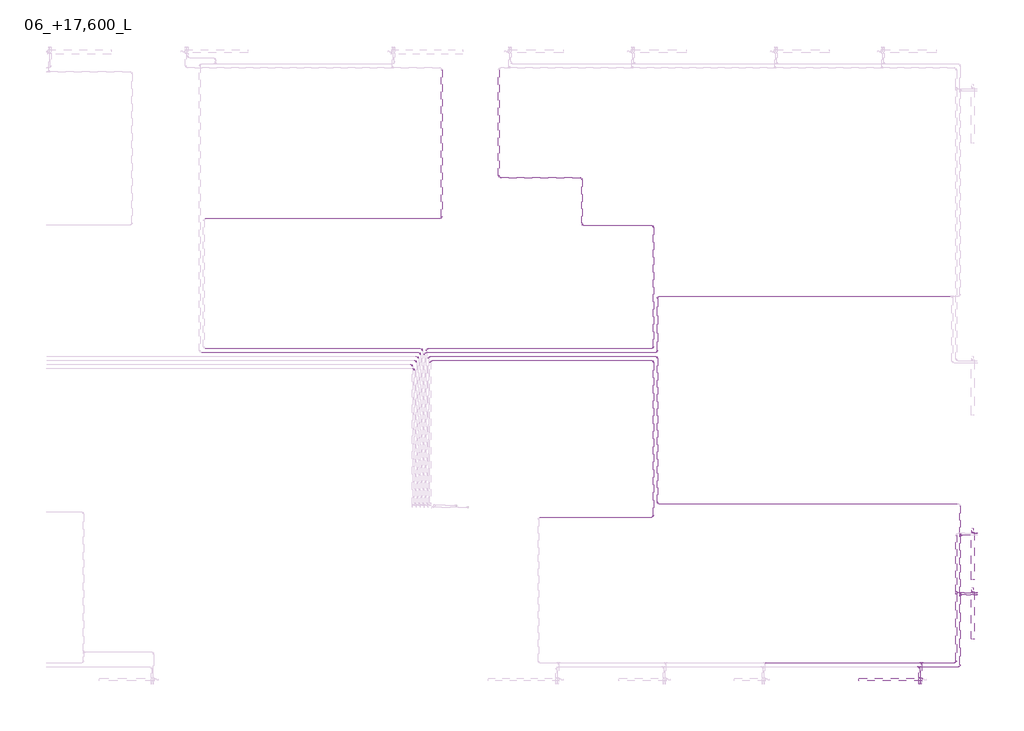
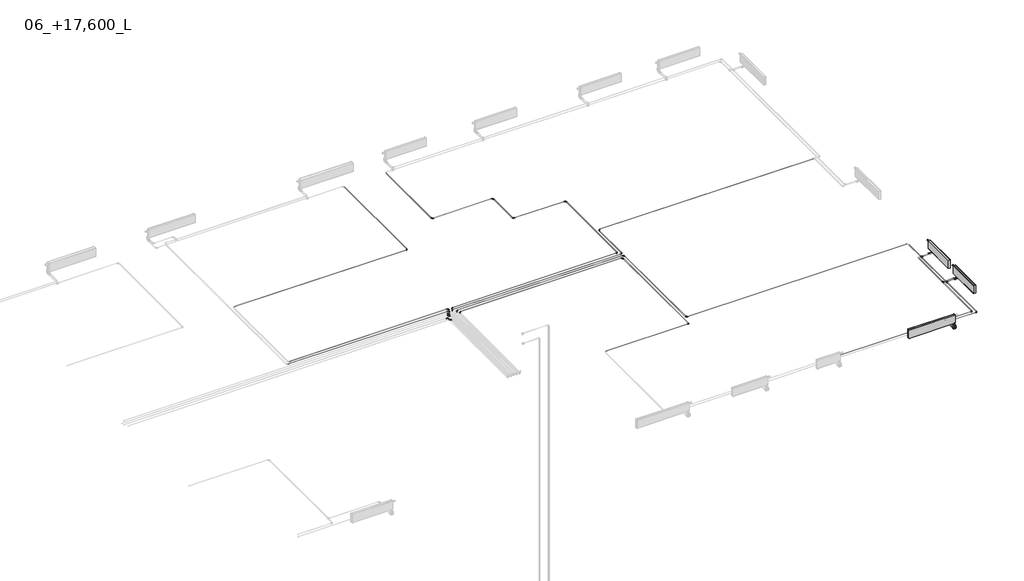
# One storey, part 4 of 7: 34 pipe fittings, 32 pipe segments, 3 proxies, 2 valves.
"""IFC4 building model written with IfcOpenShell, lengths in millimetres."""

from ifc_helpers import new_model, si_unit, point, frame, frame_2d, origin, place, context, project, spatial, circle_curve, trimmed, segment, composite_curve, outline, extrude, transform, mapped, element, save
from components import mechanical_equipment_c0c35615, mechanical_equipment_da64a6a1, pipe_fitting_44bd76dc, pipe_fitting_8f811e63, pipe_fitting_d927fdfb, valve_f5090433

model = new_model("IFC4")

# Units and contexts
model_context = context("Model", 3, world=origin())
ifc_project = project(units=[si_unit("LENGTHUNIT", "METRE", prefix="MILLI")], contexts=[model_context])

# Site, building, storey
site = spatial("IfcSite", under=ifc_project)
building = spatial("IfcBuilding", under=site)
storey = spatial("IfcBuildingStorey", under=building, Name="06_+17,600_L", Elevation=17600.0)

# Proxies
placement = place(None, origin())
mechanical_equipment_shape = mechanical_equipment_c0c35615(model_context)
element("IfcBuildingElementProxy", 1, Name="EVRA CV Д : 21-300-1600", ObjectType="EVRA CV Д : 21-300-1600", at=placement, inside=storey, context=model_context, shape_type="MappedRepresentation", body=[
    mapped(mechanical_equipment_shape, transform((80050.0, 112561.4631102, 31400.0), x_axis=(-1.0, 0.0, 0.0), y_axis=(0.0, -1.0, 0.0), z_axis=(0.0, 0.0, 1.0))),
])
mechanical_equipment_2_shape = mechanical_equipment_da64a6a1(model_context)
element("IfcBuildingElementProxy", 2, Name="EVRA CV Д : 21-300-1200", ObjectType="EVRA CV Д : 21-300-1200", at=placement, inside=storey, context=model_context, shape_type="MappedRepresentation", body=[
    mapped(mechanical_equipment_2_shape, transform((81938.5368898, 114400.0, 31400.0), x_axis=(0.0, -1.0, 0.0), y_axis=(1.0, 0.0, 0.0), z_axis=(0.0, 0.0, 1.0))),
])
element("IfcBuildingElementProxy", 3, Name="EVRA CV Д : 21-300-1200", ObjectType="EVRA CV Д : 21-300-1200", at=placement, inside=storey, context=model_context, shape_type="MappedRepresentation", body=[
    mapped(mechanical_equipment_2_shape, transform((81938.5368898, 115900.0, 31400.0), x_axis=(0.0, -1.0, 0.0), y_axis=(1.0, 0.0, 0.0), z_axis=(0.0, 0.0, 1.0))),
])

# Pipe fittings
pipe_fitting_shape = pipe_fitting_44bd76dc(model_context)
element("IfcPipeFitting", 4, ObjectType="ADSK_Пресс-фитинг ПЭ_Тройник : Пластик черный", at=placement, inside=storey, context=model_context, shape_type="MappedRepresentation", body=[
    mapped(pipe_fitting_shape, transform((81600.0000003, 116220.0, 31350.0), x_axis=(0.0, 1.0, 0.0), y_axis=(-1.0, 0.0, 0.0), z_axis=(0.0, 0.0, 1.0))),
])
element("IfcPipeFitting", 5, ObjectType="ADSK_Пресс-фитинг ПЭ_Тройник : Пластик черный", at=placement, inside=storey, context=model_context, shape_type="MappedRepresentation", body=[
    mapped(pipe_fitting_shape, transform((81600.0000003, 114720.0, 31350.0), x_axis=(0.0, 1.0, 0.0), y_axis=(-1.0, 0.0, 0.0), z_axis=(0.0, 0.0, 1.0))),
])
element("IfcPipeFitting", 6, ObjectType="ADSK_Пресс-фитинг ПЭ_Тройник : Пластик черный", at=placement, inside=storey, context=model_context, shape_type="MappedRepresentation", body=[
    mapped(pipe_fitting_shape, transform((81500.0000003, 114770.0, 31350.0), x_axis=(0.0, 1.0, 0.0), y_axis=(-1.0, 0.0, 0.0), z_axis=(0.0, 0.0, 1.0))),
])
element("IfcPipeFitting", 7, ObjectType="ADSK_Пресс-фитинг ПЭ_Тройник : Пластик черный", at=placement, inside=storey, context=model_context, shape_type="MappedRepresentation", body=[
    mapped(pipe_fitting_shape, transform((80620.0, 113000.0, 31350.0), x_axis=(1.0, 0.0, 0.0), y_axis=(0.0, 1.0, 0.0), z_axis=(0.0, 0.0, 1.0))),
])
element("IfcPipeFitting", 8, ObjectType="ADSK_Пресс-фитинг ПЭ_Тройник : Пластик черный", at=placement, inside=storey, context=model_context, shape_type="MappedRepresentation", body=[
    mapped(pipe_fitting_shape, transform((80570.0, 112900.0, 31350.0), x_axis=(1.0, 0.0, 0.0), y_axis=(0.0, 1.0, 0.0), z_axis=(0.0, 0.0, 1.0))),
])
pipe_fitting_2_shape = pipe_fitting_8f811e63(model_context)
element("IfcPipeFitting", 9, ObjectType="ADSK_Пресс-фитинг ПЭ_Поворот с фиксатором : Поворот трубы", at=placement, inside=storey, context=model_context, shape_type="MappedRepresentation", body=[
    mapped(pipe_fitting_2_shape, transform((68535.0, 124200.0, 31350.0), x_axis=(1.0, 0.0, 0.0), y_axis=(0.0, 1.0, 0.0), z_axis=(0.0, 0.0, 1.0))),
])
element("IfcPipeFitting", 10, ObjectType="ADSK_Пресс-фитинг ПЭ_Поворот с фиксатором : Поворот трубы", at=placement, inside=storey, context=model_context, shape_type="MappedRepresentation", body=[
    mapped(pipe_fitting_2_shape, transform((72070.0, 124028.4031807, 31350.0), x_axis=(0.0, -1.0, 0.0), y_axis=(1.0, 0.0, 0.0), z_axis=(0.0, 0.0, 1.0))),
])
element("IfcPipeFitting", 11, ObjectType="ADSK_Пресс-фитинг ПЭ_Поворот с фиксатором : Поворот трубы", at=placement, inside=storey, context=model_context, shape_type="MappedRepresentation", body=[
    mapped(pipe_fitting_2_shape, transform((72070.0, 125228.4031807, 31350.0), x_axis=(0.0, 1.0, 0.0), y_axis=(-1.0, 0.0, 0.0), z_axis=(0.0, 0.0, 1.0))),
])
element("IfcPipeFitting", 12, ObjectType="ADSK_Пресс-фитинг ПЭ_Поворот с фиксатором : Поворот трубы", at=placement, inside=storey, context=model_context, shape_type="MappedRepresentation", body=[
    mapped(pipe_fitting_2_shape, transform((69970.0, 125228.4031807, 31350.0), x_axis=(0.0, -1.0, 0.0), y_axis=(1.0, 0.0, 0.0), z_axis=(0.0, 0.0, 1.0))),
])
element("IfcPipeFitting", 13, ObjectType="ADSK_Пресс-фитинг ПЭ_Поворот с фиксатором : Поворот трубы", at=placement, inside=storey, context=model_context, shape_type="MappedRepresentation", body=[
    mapped(pipe_fitting_2_shape, transform((81500.0000003, 113000.0, 31350.0), x_axis=(1.0, 0.0, 0.0), y_axis=(0.0, 1.0, 0.0), z_axis=(0.0, 0.0, 1.0))),
])
element("IfcPipeFitting", 14, ObjectType="ADSK_Пресс-фитинг ПЭ_Поворот с фиксатором : Поворот трубы", at=placement, inside=storey, context=model_context, shape_type="MappedRepresentation", body=[
    mapped(pipe_fitting_2_shape, transform((81600.0000003, 112900.0, 31350.0), x_axis=(1.0, 0.0, 0.0), y_axis=(0.0, 1.0, 0.0), z_axis=(0.0, 0.0, 1.0))),
])
element("IfcPipeFitting", 15, ObjectType="ADSK_Пресс-фитинг ПЭ_Поворот с фиксатором : Поворот трубы", at=placement, inside=storey, context=model_context, shape_type="MappedRepresentation", body=[
    mapped(pipe_fitting_2_shape, transform((73870.0, 120921.8369308, 31350.0), x_axis=(1.0, 0.0, 0.0), y_axis=(0.0, 1.0, 0.0), z_axis=(0.0, 0.0, 1.0))),
])
element("IfcPipeFitting", 16, ObjectType="ADSK_Пресс-фитинг ПЭ_Поворот с фиксатором : Поворот трубы", at=placement, inside=storey, context=model_context, shape_type="MappedRepresentation", body=[
    mapped(pipe_fitting_2_shape, transform((73870.0, 124028.4031807, 31350.0), x_axis=(0.0, 1.0, 0.0), y_axis=(-1.0, 0.0, 0.0), z_axis=(0.0, 0.0, 1.0))),
])
element("IfcPipeFitting", 17, ObjectType="ADSK_Пресс-фитинг ПЭ_Поворот с фиксатором : Поворот трубы", at=placement, inside=storey, context=model_context, shape_type="MappedRepresentation", body=[
    mapped(pipe_fitting_2_shape, transform((73970.0, 120821.8369308, 31350.0), x_axis=(1.0, 0.0, 0.0), y_axis=(0.0, 1.0, 0.0), z_axis=(0.0, 0.0, 1.0))),
])
element("IfcPipeFitting", 18, ObjectType="ADSK_Пресс-фитинг ПЭ_Поворот с фиксатором : Поворот трубы", at=placement, inside=storey, context=model_context, shape_type="MappedRepresentation", body=[
    mapped(pipe_fitting_2_shape, transform((73970.0, 122240.0, 31350.0), x_axis=(-1.0, 0.0, 0.0), y_axis=(0.0, -1.0, 0.0), z_axis=(0.0, 0.0, 1.0))),
])
element("IfcPipeFitting", 19, ObjectType="ADSK_Пресс-фитинг ПЭ_Поворот с фиксатором : Поворот трубы", at=placement, inside=storey, context=model_context, shape_type="MappedRepresentation", body=[
    mapped(pipe_fitting_2_shape, transform((73970.0, 120721.8369308, 31350.0), x_axis=(0.0, 1.0, 0.0), y_axis=(-1.0, 0.0, 0.0), z_axis=(0.0, 0.0, 1.0))),
])
element("IfcPipeFitting", 20, ObjectType="ADSK_Пресс-фитинг ПЭ_Поворот с фиксатором : Поворот трубы", at=placement, inside=storey, context=model_context, shape_type="MappedRepresentation", body=[
    mapped(pipe_fitting_2_shape, transform((73970.0, 117005.0000002, 31350.0), x_axis=(0.0, -1.0, 0.0), y_axis=(1.0, 0.0, 0.0), z_axis=(0.0, 0.0, 1.0))),
])
element("IfcPipeFitting", 21, ObjectType="ADSK_Пресс-фитинг ПЭ_Поворот с фиксатором : Поворот трубы", at=placement, inside=storey, context=model_context, shape_type="MappedRepresentation", body=[
    mapped(pipe_fitting_2_shape, transform((73870.0, 120621.8369308, 31350.0), x_axis=(0.0, 1.0, 0.0), y_axis=(-1.0, 0.0, 0.0), z_axis=(0.0, 0.0, 1.0))),
])
element("IfcPipeFitting", 22, ObjectType="ADSK_Пресс-фитинг ПЭ_Поворот с фиксатором : Поворот трубы", at=placement, inside=storey, context=model_context, shape_type="MappedRepresentation", body=[
    mapped(pipe_fitting_2_shape, transform((73870.0, 116670.0, 31350.0), x_axis=(1.0, 0.0, 0.0), y_axis=(0.0, 1.0, 0.0), z_axis=(0.0, 0.0, 1.0))),
])
element("IfcPipeFitting", 23, ObjectType="ADSK_Пресс-фитинг ПЭ_Поворот с фиксатором : Поворот трубы", at=placement, inside=storey, context=model_context, shape_type="MappedRepresentation", body=[
    mapped(pipe_fitting_2_shape, transform((67995.0, 120821.8369308, 31350.0), x_axis=(0.0, 1.0, 0.0), y_axis=(-1.0, 0.0, 0.0), z_axis=(0.0, 0.0, 1.0))),
])
element("IfcPipeFitting", 24, ObjectType="ADSK_Пресс-фитинг ПЭ_Поворот с фиксатором : Поворот трубы", at=placement, inside=storey, context=model_context, shape_type="MappedRepresentation", body=[
    mapped(pipe_fitting_2_shape, transform((68095.0, 120821.8369308, 31350.0), x_axis=(-1.0, 0.0, 0.0), y_axis=(0.0, -1.0, 0.0), z_axis=(0.0, 0.0, 1.0))),
])
element("IfcPipeFitting", 25, ObjectType="ADSK_Пресс-фитинг ПЭ_Поворот с фиксатором : Поворот трубы", at=placement, inside=storey, context=model_context, shape_type="MappedRepresentation", body=[
    mapped(pipe_fitting_2_shape, transform((68145.0, 120921.8369308, 31350.0), x_axis=(-1.0, 0.0, 0.0), y_axis=(0.0, -1.0, 0.0), z_axis=(0.0, 0.0, 1.0))),
])
element("IfcPipeFitting", 26, ObjectType="ADSK_Пресс-фитинг ПЭ_Поворот с фиксатором : Поворот трубы", at=placement, inside=storey, context=model_context, shape_type="MappedRepresentation", body=[
    mapped(pipe_fitting_2_shape, transform((68195.0, 120721.8369308, 31350.0), x_axis=(-1.0, 0.0, 0.0), y_axis=(0.0, -1.0, 0.0), z_axis=(0.0, 0.0, 1.0))),
])
element("IfcPipeFitting", 27, ObjectType="ADSK_Пресс-фитинг ПЭ_Поворот с фиксатором : Поворот трубы", at=placement, inside=storey, context=model_context, shape_type="MappedRepresentation", body=[
    mapped(pipe_fitting_2_shape, transform((68245.0, 120621.8369308, 31350.0), x_axis=(-1.0, 0.0, 0.0), y_axis=(0.0, -1.0, 0.0), z_axis=(0.0, 0.0, 1.0))),
])
element("IfcPipeFitting", 28, ObjectType="ADSK_Пресс-фитинг ПЭ_Поворот с фиксатором : Поворот трубы", at=placement, inside=storey, context=model_context, shape_type="MappedRepresentation", body=[
    mapped(pipe_fitting_2_shape, transform((67795.0, 120521.8369308, 31350.0), x_axis=(0.0, 1.0, 0.0), y_axis=(-1.0, 0.0, 0.0), z_axis=(0.0, 0.0, 1.0))),
])
element("IfcPipeFitting", 29, ObjectType="ADSK_Пресс-фитинг ПЭ_Поворот с фиксатором : Поворот трубы", at=placement, inside=storey, context=model_context, shape_type="MappedRepresentation", body=[
    mapped(pipe_fitting_2_shape, transform((67845.0, 120421.8369308, 31350.0), x_axis=(0.0, 1.0, 0.0), y_axis=(-1.0, 0.0, 0.0), z_axis=(0.0, 0.0, 1.0))),
])
element("IfcPipeFitting", 30, ObjectType="ADSK_Пресс-фитинг ПЭ_Поворот с фиксатором : Поворот трубы", at=placement, inside=storey, context=model_context, shape_type="MappedRepresentation", body=[
    mapped(pipe_fitting_2_shape, transform((67895.0, 120621.8369308, 31350.0), x_axis=(0.0, 1.0, 0.0), y_axis=(-1.0, 0.0, 0.0), z_axis=(0.0, 0.0, 1.0))),
])
element("IfcPipeFitting", 31, ObjectType="ADSK_Пресс-фитинг ПЭ_Поворот с фиксатором : Поворот трубы", at=placement, inside=storey, context=model_context, shape_type="MappedRepresentation", body=[
    mapped(pipe_fitting_2_shape, transform((67945.0, 120721.8369308, 31350.0), x_axis=(0.0, 1.0, 0.0), y_axis=(-1.0, 0.0, 0.0), z_axis=(0.0, 0.0, 1.0))),
])
element("IfcPipeFitting", 32, ObjectType="ADSK_Пресс-фитинг ПЭ_Поворот с фиксатором : Поворот трубы", at=placement, inside=storey, context=model_context, shape_type="MappedRepresentation", body=[
    mapped(pipe_fitting_2_shape, transform((68045.0, 120921.8369308, 31350.0), x_axis=(0.0, 1.0, 0.0), y_axis=(-1.0, 0.0, 0.0), z_axis=(0.0, 0.0, 1.0))),
])
pipe_fitting_3_shape = pipe_fitting_d927fdfb(model_context)
element("IfcPipeFitting", 33, ObjectType="Трубка Г-образная VTm.481.PC из стены : VTm.481.PC", at=placement, inside=storey, context=model_context, shape_type="MappedRepresentation", body=[
    mapped(pipe_fitting_3_shape, transform((81988.0, 114770.0, 31350.0), x_axis=(0.0, -1.0, 0.0), y_axis=(1.0, 0.0, 0.0), z_axis=(0.0, 0.0, 1.0))),
])
element("IfcPipeFitting", 34, ObjectType="Трубка Г-образная VTm.481.PC из стены : VTm.481.PC", at=placement, inside=storey, context=model_context, shape_type="MappedRepresentation", body=[
    mapped(pipe_fitting_3_shape, transform((80620.0, 112512.0, 31350.0), x_axis=(-1.0, 0.0, 0.0), y_axis=(0.0, -1.0, 0.0), z_axis=(0.0, 0.0, 1.0))),
])
element("IfcPipeFitting", 35, ObjectType="Трубка Г-образная VTm.481.PC из стены : VTm.481.PC", at=placement, inside=storey, context=model_context, shape_type="MappedRepresentation", body=[
    mapped(pipe_fitting_3_shape, transform((81988.0, 116270.0, 31350.0), x_axis=(0.0, -1.0, 0.0), y_axis=(1.0, 0.0, 0.0), z_axis=(0.0, 0.0, 1.0))),
])
element("IfcPipeFitting", 36, ObjectType="Трубка Г-образная VTm.481.PC из стены : VTm.481.PC", at=placement, inside=storey, context=model_context, shape_type="MappedRepresentation", body=[
    mapped(pipe_fitting_3_shape, transform((81988.0, 114720.0, 31350.0), x_axis=(0.0, -1.0, 0.0), y_axis=(1.0, 0.0, 0.0), z_axis=(0.0, 0.0, 1.0))),
])
element("IfcPipeFitting", 37, ObjectType="Трубка Г-образная VTm.481.PC из стены : VTm.481.PC", at=placement, inside=storey, context=model_context, shape_type="MappedRepresentation", body=[
    mapped(pipe_fitting_3_shape, transform((80570.0, 112512.0, 31350.0), x_axis=(-1.0, 0.0, 0.0), y_axis=(0.0, -1.0, 0.0), z_axis=(0.0, 0.0, 1.0))),
])

# Pipe segments
element("IfcPipeSegment", 38, ObjectType="ADSK_Полиэтилен сшитый", at=placement, inside=storey, context=model_context, shape_type="SweptSolid", body=[
    extrude(outline(composite_curve([segment(trimmed(circle_curve(frame_2d((31350.0, 81500.0000003)), 8.0), [point((31350.0, 81508.0000003))], [point((31358.0, 81500.0000003))], False, "CARTESIAN"), True, "CONTINUOUS"), segment(trimmed(circle_curve(frame_2d((31350.0, 81500.0000003)), 8.0), [point((31358.0, 81500.0000003))], [point((31350.0, 81492.0000003))], False, "CARTESIAN"), True, "CONTINUOUS"), segment(trimmed(circle_curve(frame_2d((31350.0, 81500.0000003)), 8.0), [point((31350.0, 81492.0000003))], [point((31342.0, 81500.0000003))], False, "CARTESIAN"), True, "CONTINUOUS"), segment(trimmed(circle_curve(frame_2d((31350.0, 81500.0000003)), 8.0), [point((31342.0, 81500.0000003))], [point((31350.0, 81508.0000003))], False, "CARTESIAN"), True, "CONTINUOUS")], self_intersect=False)), frame((0.0, 114790.0, 0.0), z_axis=(0.0, 1.0, 0.0), x_axis=(0.0, 0.0, 1.0)), (0.0, 0.0, 1.0), 1432.0),
])
element("IfcPipeSegment", 39, ObjectType="ADSK_Полиэтилен сшитый", at=placement, inside=storey, context=model_context, shape_type="SweptSolid", body=[
    extrude(outline(composite_curve([segment(trimmed(circle_curve(frame_2d((124200.0, 31350.0)), 8.0), [point((124192.0, 31350.0))], [point((124200.0, 31358.0))], False, "CARTESIAN"), True, "CONTINUOUS"), segment(trimmed(circle_curve(frame_2d((124200.0, 31350.0)), 8.0), [point((124200.0, 31358.0))], [point((124208.0, 31350.0))], False, "CARTESIAN"), True, "CONTINUOUS"), segment(trimmed(circle_curve(frame_2d((124200.0, 31350.0)), 8.0), [point((124208.0, 31350.0))], [point((124200.0, 31342.0))], False, "CARTESIAN"), True, "CONTINUOUS"), segment(trimmed(circle_curve(frame_2d((124200.0, 31350.0)), 8.0), [point((124200.0, 31342.0))], [point((124192.0, 31350.0))], False, "CARTESIAN"), True, "CONTINUOUS")], self_intersect=False)), frame((62583.0, 0.0, 0.0), z_axis=(1.0, 0.0, 0.0), x_axis=(0.0, 1.0, 0.0)), (0.0, 0.0, 1.0), 5904.0),
])
element("IfcPipeSegment", 40, ObjectType="ADSK_Полиэтилен сшитый", at=placement, inside=storey, context=model_context, shape_type="SweptSolid", body=[
    extrude(outline(composite_curve([segment(trimmed(circle_curve(frame_2d((31350.0, 68535.0)), 8.0), [point((31350.0, 68543.0))], [point((31358.0, 68535.0))], False, "CARTESIAN"), True, "CONTINUOUS"), segment(trimmed(circle_curve(frame_2d((31350.0, 68535.0)), 8.0), [point((31358.0, 68535.0))], [point((31350.0, 68527.0))], False, "CARTESIAN"), True, "CONTINUOUS"), segment(trimmed(circle_curve(frame_2d((31350.0, 68535.0)), 8.0), [point((31350.0, 68527.0))], [point((31342.0, 68535.0))], False, "CARTESIAN"), True, "CONTINUOUS"), segment(trimmed(circle_curve(frame_2d((31350.0, 68535.0)), 8.0), [point((31342.0, 68535.0))], [point((31350.0, 68543.0))], False, "CARTESIAN"), True, "CONTINUOUS")], self_intersect=False)), frame((0.0, 124248.0, 0.0), z_axis=(0.0, 1.0, 0.0), x_axis=(0.0, 0.0, 1.0)), (0.0, 0.0, 1.0), 3704.0),
])
element("IfcPipeSegment", 41, ObjectType="ADSK_Полиэтилен сшитый", at=placement, inside=storey, context=model_context, shape_type="SweptSolid", body=[
    extrude(outline(composite_curve([segment(trimmed(circle_curve(frame_2d((31350.0, 73870.0)), 8.0), [point((31350.0, 73878.0))], [point((31358.0, 73870.0))], False, "CARTESIAN"), True, "CONTINUOUS"), segment(trimmed(circle_curve(frame_2d((31350.0, 73870.0)), 8.0), [point((31358.0, 73870.0))], [point((31350.0, 73862.0))], False, "CARTESIAN"), True, "CONTINUOUS"), segment(trimmed(circle_curve(frame_2d((31350.0, 73870.0)), 8.0), [point((31350.0, 73862.0))], [point((31342.0, 73870.0))], False, "CARTESIAN"), True, "CONTINUOUS"), segment(trimmed(circle_curve(frame_2d((31350.0, 73870.0)), 8.0), [point((31342.0, 73870.0))], [point((31350.0, 73878.0))], False, "CARTESIAN"), True, "CONTINUOUS")], self_intersect=False)), frame((0.0, 120969.8369308, 0.0), z_axis=(0.0, 1.0, 0.0), x_axis=(0.0, 0.0, 1.0)), (0.0, 0.0, 1.0), 3010.5662499),
])
element("IfcPipeSegment", 42, ObjectType="ADSK_Полиэтилен сшитый", at=placement, inside=storey, context=model_context, shape_type="SweptSolid", body=[
    extrude(outline(composite_curve([segment(trimmed(circle_curve(frame_2d((124028.4031807, 31350.0)), 8.0), [point((124036.4031807, 31350.0))], [point((124028.4031807, 31342.0))], False, "CARTESIAN"), True, "CONTINUOUS"), segment(trimmed(circle_curve(frame_2d((124028.4031807, 31350.0)), 8.0), [point((124028.4031807, 31342.0))], [point((124020.4031807, 31350.0))], False, "CARTESIAN"), True, "CONTINUOUS"), segment(trimmed(circle_curve(frame_2d((124028.4031807, 31350.0)), 8.0), [point((124020.4031807, 31350.0))], [point((124028.4031807, 31358.0))], False, "CARTESIAN"), True, "CONTINUOUS"), segment(trimmed(circle_curve(frame_2d((124028.4031807, 31350.0)), 8.0), [point((124028.4031807, 31358.0))], [point((124036.4031807, 31350.0))], False, "CARTESIAN"), True, "CONTINUOUS")], self_intersect=False)), frame((72118.0, 0.0, 0.0), z_axis=(1.0, 0.0, 0.0), x_axis=(0.0, 1.0, 0.0)), (0.0, 0.0, 1.0), 1704.0),
])
element("IfcPipeSegment", 43, ObjectType="ADSK_Полиэтилен сшитый", at=placement, inside=storey, context=model_context, shape_type="SweptSolid", body=[
    extrude(outline(composite_curve([segment(trimmed(circle_curve(frame_2d((31350.0, 72070.0)), 8.0), [point((31350.0, 72078.0))], [point((31358.0, 72070.0))], False, "CARTESIAN"), True, "CONTINUOUS"), segment(trimmed(circle_curve(frame_2d((31350.0, 72070.0)), 8.0), [point((31358.0, 72070.0))], [point((31350.0, 72062.0))], False, "CARTESIAN"), True, "CONTINUOUS"), segment(trimmed(circle_curve(frame_2d((31350.0, 72070.0)), 8.0), [point((31350.0, 72062.0))], [point((31342.0, 72070.0))], False, "CARTESIAN"), True, "CONTINUOUS"), segment(trimmed(circle_curve(frame_2d((31350.0, 72070.0)), 8.0), [point((31342.0, 72070.0))], [point((31350.0, 72078.0))], False, "CARTESIAN"), True, "CONTINUOUS")], self_intersect=False)), frame((0.0, 124076.4031807, 0.0), z_axis=(0.0, 1.0, 0.0), x_axis=(0.0, 0.0, 1.0)), (0.0, 0.0, 1.0), 1104.0),
])
element("IfcPipeSegment", 44, ObjectType="ADSK_Полиэтилен сшитый", at=placement, inside=storey, context=model_context, shape_type="SweptSolid", body=[
    extrude(outline(composite_curve([segment(trimmed(circle_curve(frame_2d((125228.4031807, 31350.0)), 8.0), [point((125236.4031807, 31350.0))], [point((125228.4031807, 31342.0))], False, "CARTESIAN"), True, "CONTINUOUS"), segment(trimmed(circle_curve(frame_2d((125228.4031807, 31350.0)), 8.0), [point((125228.4031807, 31342.0))], [point((125220.4031807, 31350.0))], False, "CARTESIAN"), True, "CONTINUOUS"), segment(trimmed(circle_curve(frame_2d((125228.4031807, 31350.0)), 8.0), [point((125220.4031807, 31350.0))], [point((125228.4031807, 31358.0))], False, "CARTESIAN"), True, "CONTINUOUS"), segment(trimmed(circle_curve(frame_2d((125228.4031807, 31350.0)), 8.0), [point((125228.4031807, 31358.0))], [point((125236.4031807, 31350.0))], False, "CARTESIAN"), True, "CONTINUOUS")], self_intersect=False)), frame((70018.0, 0.0, 0.0), z_axis=(1.0, 0.0, 0.0), x_axis=(0.0, 1.0, 0.0)), (0.0, 0.0, 1.0), 2004.0),
])
element("IfcPipeSegment", 45, ObjectType="ADSK_Полиэтилен сшитый", at=placement, inside=storey, context=model_context, shape_type="SweptSolid", body=[
    extrude(outline(composite_curve([segment(trimmed(circle_curve(frame_2d((31350.0, 69970.0)), 8.0), [point((31350.0, 69978.0))], [point((31358.0, 69970.0))], False, "CARTESIAN"), True, "CONTINUOUS"), segment(trimmed(circle_curve(frame_2d((31350.0, 69970.0)), 8.0), [point((31358.0, 69970.0))], [point((31350.0, 69962.0))], False, "CARTESIAN"), True, "CONTINUOUS"), segment(trimmed(circle_curve(frame_2d((31350.0, 69970.0)), 8.0), [point((31350.0, 69962.0))], [point((31342.0, 69970.0))], False, "CARTESIAN"), True, "CONTINUOUS"), segment(trimmed(circle_curve(frame_2d((31350.0, 69970.0)), 8.0), [point((31342.0, 69970.0))], [point((31350.0, 69978.0))], False, "CARTESIAN"), True, "CONTINUOUS")], self_intersect=False)), frame((0.0, 125276.4031807, 0.0), z_axis=(0.0, 1.0, 0.0), x_axis=(0.0, 0.0, 1.0)), (0.0, 0.0, 1.0), 2675.5968193),
])
element("IfcPipeSegment", 46, ObjectType="ADSK_Полиэтилен сшитый", at=placement, inside=storey, context=model_context, shape_type="SweptSolid", body=[
    extrude(outline(composite_curve([segment(trimmed(circle_curve(frame_2d((31350.0, 73970.0)), 8.0), [point((31350.0, 73978.0))], [point((31358.0, 73970.0))], False, "CARTESIAN"), True, "CONTINUOUS"), segment(trimmed(circle_curve(frame_2d((31350.0, 73970.0)), 8.0), [point((31358.0, 73970.0))], [point((31350.0, 73962.0))], False, "CARTESIAN"), True, "CONTINUOUS"), segment(trimmed(circle_curve(frame_2d((31350.0, 73970.0)), 8.0), [point((31350.0, 73962.0))], [point((31342.0, 73970.0))], False, "CARTESIAN"), True, "CONTINUOUS"), segment(trimmed(circle_curve(frame_2d((31350.0, 73970.0)), 8.0), [point((31342.0, 73970.0))], [point((31350.0, 73978.0))], False, "CARTESIAN"), True, "CONTINUOUS")], self_intersect=False)), frame((0.0, 120869.8369308, 0.0), z_axis=(0.0, 1.0, 0.0), x_axis=(0.0, 0.0, 1.0)), (0.0, 0.0, 1.0), 1322.1630692),
])
element("IfcPipeSegment", 47, ObjectType="ADSK_Полиэтилен сшитый", at=placement, inside=storey, context=model_context, shape_type="SweptSolid", body=[
    extrude(outline(composite_curve([segment(trimmed(circle_curve(frame_2d((122240.0, 31350.0)), 8.0), [point((122232.0, 31350.0))], [point((122240.0, 31358.0))], False, "CARTESIAN"), True, "CONTINUOUS"), segment(trimmed(circle_curve(frame_2d((122240.0, 31350.0)), 8.0), [point((122240.0, 31358.0))], [point((122248.0, 31350.0))], False, "CARTESIAN"), True, "CONTINUOUS"), segment(trimmed(circle_curve(frame_2d((122240.0, 31350.0)), 8.0), [point((122248.0, 31350.0))], [point((122240.0, 31342.0))], False, "CARTESIAN"), True, "CONTINUOUS"), segment(trimmed(circle_curve(frame_2d((122240.0, 31350.0)), 8.0), [point((122240.0, 31342.0))], [point((122232.0, 31350.0))], False, "CARTESIAN"), True, "CONTINUOUS")], self_intersect=False)), frame((74018.0, 0.0, 0.0), z_axis=(1.0, 0.0, 0.0), x_axis=(0.0, 1.0, 0.0)), (0.0, 0.0, 1.0), 7362.0000006),
])
element("IfcPipeSegment", 48, ObjectType="ADSK_Полиэтилен сшитый", at=placement, inside=storey, context=model_context, shape_type="SweptSolid", body=[
    extrude(outline(composite_curve([segment(trimmed(circle_curve(frame_2d((31350.0, 73970.0)), 8.0), [point((31350.0, 73962.0))], [point((31342.0, 73970.0))], False, "CARTESIAN"), True, "CONTINUOUS"), segment(trimmed(circle_curve(frame_2d((31350.0, 73970.0)), 8.0), [point((31342.0, 73970.0))], [point((31350.0, 73978.0))], False, "CARTESIAN"), True, "CONTINUOUS"), segment(trimmed(circle_curve(frame_2d((31350.0, 73970.0)), 8.0), [point((31350.0, 73978.0))], [point((31358.0, 73970.0))], False, "CARTESIAN"), True, "CONTINUOUS"), segment(trimmed(circle_curve(frame_2d((31350.0, 73970.0)), 8.0), [point((31358.0, 73970.0))], [point((31350.0, 73962.0))], False, "CARTESIAN"), True, "CONTINUOUS")], self_intersect=False)), frame((0.0, 117053.0000002, 0.0), z_axis=(0.0, 1.0, 0.0), x_axis=(0.0, 0.0, 1.0)), (0.0, 0.0, 1.0), 3620.8369306),
])
element("IfcPipeSegment", 49, ObjectType="ADSK_Полиэтилен сшитый", at=placement, inside=storey, context=model_context, shape_type="SweptSolid", body=[
    extrude(outline(composite_curve([segment(trimmed(circle_curve(frame_2d((117005.0000002, 31350.0)), 8.0), [point((116997.0000002, 31350.0))], [point((117005.0000002, 31358.0))], False, "CARTESIAN"), True, "CONTINUOUS"), segment(trimmed(circle_curve(frame_2d((117005.0000002, 31350.0)), 8.0), [point((117005.0000002, 31358.0))], [point((117013.0000002, 31350.0))], False, "CARTESIAN"), True, "CONTINUOUS"), segment(trimmed(circle_curve(frame_2d((117005.0000002, 31350.0)), 8.0), [point((117013.0000002, 31350.0))], [point((117005.0000002, 31342.0))], False, "CARTESIAN"), True, "CONTINUOUS"), segment(trimmed(circle_curve(frame_2d((117005.0000002, 31350.0)), 8.0), [point((117005.0000002, 31342.0))], [point((116997.0000002, 31350.0))], False, "CARTESIAN"), True, "CONTINUOUS")], self_intersect=False)), frame((74018.0, 0.0, 0.0), z_axis=(1.0, 0.0, 0.0), x_axis=(0.0, 1.0, 0.0)), (0.0, 0.0, 1.0), 7534.0000003),
])
element("IfcPipeSegment", 50, ObjectType="ADSK_Полиэтилен сшитый", at=placement, inside=storey, context=model_context, shape_type="SweptSolid", body=[
    extrude(outline(composite_curve([segment(trimmed(circle_curve(frame_2d((116220.0, 31350.0)), 8.0), [point((116212.0, 31350.0))], [point((116220.0, 31358.0))], False, "CARTESIAN"), True, "CONTINUOUS"), segment(trimmed(circle_curve(frame_2d((116220.0, 31350.0)), 8.0), [point((116220.0, 31358.0))], [point((116228.0, 31350.0))], False, "CARTESIAN"), True, "CONTINUOUS"), segment(trimmed(circle_curve(frame_2d((116220.0, 31350.0)), 8.0), [point((116228.0, 31350.0))], [point((116220.0, 31342.0))], False, "CARTESIAN"), True, "CONTINUOUS"), segment(trimmed(circle_curve(frame_2d((116220.0, 31350.0)), 8.0), [point((116220.0, 31342.0))], [point((116212.0, 31350.0))], False, "CARTESIAN"), True, "CONTINUOUS")], self_intersect=False)), frame((81624.0000003, 0.0, 0.0), z_axis=(1.0, 0.0, 0.0), x_axis=(0.0, 1.0, 0.0)), (0.0, 0.0, 1.0), 248.9999997),
])
element("IfcPipeSegment", 51, ObjectType="ADSK_Полиэтилен сшитый", at=placement, inside=storey, context=model_context, shape_type="SweptSolid", body=[
    extrude(outline(composite_curve([segment(trimmed(circle_curve(frame_2d((31350.0, 81600.0000003)), 8.0), [point((31350.0, 81592.0000003))], [point((31342.0, 81600.0000003))], False, "CARTESIAN"), True, "CONTINUOUS"), segment(trimmed(circle_curve(frame_2d((31350.0, 81600.0000003)), 8.0), [point((31342.0, 81600.0000003))], [point((31350.0, 81608.0000003))], False, "CARTESIAN"), True, "CONTINUOUS"), segment(trimmed(circle_curve(frame_2d((31350.0, 81600.0000003)), 8.0), [point((31350.0, 81608.0000003))], [point((31358.0, 81600.0000003))], False, "CARTESIAN"), True, "CONTINUOUS"), segment(trimmed(circle_curve(frame_2d((31350.0, 81600.0000003)), 8.0), [point((31358.0, 81600.0000003))], [point((31350.0, 81592.0000003))], False, "CARTESIAN"), True, "CONTINUOUS")], self_intersect=False)), frame((0.0, 116240.0, 0.0), z_axis=(0.0, 1.0, 0.0), x_axis=(0.0, 0.0, 1.0)), (0.0, 0.0, 1.0), 717.0000002),
])
element("IfcPipeSegment", 52, ObjectType="ADSK_Полиэтилен сшитый", at=placement, inside=storey, context=model_context, shape_type="SweptSolid", body=[
    extrude(outline(composite_curve([segment(trimmed(circle_curve(frame_2d((114770.0, 31350.0)), 8.0), [point((114762.0, 31350.0))], [point((114770.0, 31358.0))], False, "CARTESIAN"), True, "CONTINUOUS"), segment(trimmed(circle_curve(frame_2d((114770.0, 31350.0)), 8.0), [point((114770.0, 31358.0))], [point((114778.0, 31350.0))], False, "CARTESIAN"), True, "CONTINUOUS"), segment(trimmed(circle_curve(frame_2d((114770.0, 31350.0)), 8.0), [point((114778.0, 31350.0))], [point((114770.0, 31342.0))], False, "CARTESIAN"), True, "CONTINUOUS"), segment(trimmed(circle_curve(frame_2d((114770.0, 31350.0)), 8.0), [point((114770.0, 31342.0))], [point((114762.0, 31350.0))], False, "CARTESIAN"), True, "CONTINUOUS")], self_intersect=False)), frame((81524.0000003, 0.0, 0.0), z_axis=(1.0, 0.0, 0.0), x_axis=(0.0, 1.0, 0.0)), (0.0, 0.0, 1.0), 348.9999997),
])
element("IfcPipeSegment", 53, ObjectType="ADSK_Полиэтилен сшитый", at=placement, inside=storey, context=model_context, shape_type="SweptSolid", body=[
    extrude(outline(composite_curve([segment(trimmed(circle_curve(frame_2d((114720.0, 31350.0)), 8.0), [point((114712.0, 31350.0))], [point((114720.0, 31358.0))], False, "CARTESIAN"), True, "CONTINUOUS"), segment(trimmed(circle_curve(frame_2d((114720.0, 31350.0)), 8.0), [point((114720.0, 31358.0))], [point((114728.0, 31350.0))], False, "CARTESIAN"), True, "CONTINUOUS"), segment(trimmed(circle_curve(frame_2d((114720.0, 31350.0)), 8.0), [point((114728.0, 31350.0))], [point((114720.0, 31342.0))], False, "CARTESIAN"), True, "CONTINUOUS"), segment(trimmed(circle_curve(frame_2d((114720.0, 31350.0)), 8.0), [point((114720.0, 31342.0))], [point((114712.0, 31350.0))], False, "CARTESIAN"), True, "CONTINUOUS")], self_intersect=False)), frame((81624.0000003, 0.0, 0.0), z_axis=(1.0, 0.0, 0.0), x_axis=(0.0, 1.0, 0.0)), (0.0, 0.0, 1.0), 248.9999997),
])
element("IfcPipeSegment", 54, ObjectType="ADSK_Полиэтилен сшитый", at=placement, inside=storey, context=model_context, shape_type="SweptSolid", body=[
    extrude(outline(composite_curve([segment(trimmed(circle_curve(frame_2d((31350.0, 81600.0000003)), 8.0), [point((31350.0, 81592.0000003))], [point((31342.0, 81600.0000003))], False, "CARTESIAN"), True, "CONTINUOUS"), segment(trimmed(circle_curve(frame_2d((31350.0, 81600.0000003)), 8.0), [point((31342.0, 81600.0000003))], [point((31350.0, 81608.0000003))], False, "CARTESIAN"), True, "CONTINUOUS"), segment(trimmed(circle_curve(frame_2d((31350.0, 81600.0000003)), 8.0), [point((31350.0, 81608.0000003))], [point((31358.0, 81600.0000003))], False, "CARTESIAN"), True, "CONTINUOUS"), segment(trimmed(circle_curve(frame_2d((31350.0, 81600.0000003)), 8.0), [point((31358.0, 81600.0000003))], [point((31350.0, 81592.0000003))], False, "CARTESIAN"), True, "CONTINUOUS")], self_intersect=False)), frame((0.0, 112948.0, 0.0), z_axis=(0.0, 1.0, 0.0), x_axis=(0.0, 0.0, 1.0)), (0.0, 0.0, 1.0), 1752.0),
])
element("IfcPipeSegment", 55, ObjectType="ADSK_Полиэтилен сшитый", at=placement, inside=storey, context=model_context, shape_type="SweptSolid", body=[
    extrude(outline(composite_curve([segment(trimmed(circle_curve(frame_2d((31350.0, 80570.0)), 8.0), [point((31350.0, 80562.0))], [point((31342.0, 80570.0))], False, "CARTESIAN"), True, "CONTINUOUS"), segment(trimmed(circle_curve(frame_2d((31350.0, 80570.0)), 8.0), [point((31342.0, 80570.0))], [point((31350.0, 80578.0))], False, "CARTESIAN"), True, "CONTINUOUS"), segment(trimmed(circle_curve(frame_2d((31350.0, 80570.0)), 8.0), [point((31350.0, 80578.0))], [point((31358.0, 80570.0))], False, "CARTESIAN"), True, "CONTINUOUS"), segment(trimmed(circle_curve(frame_2d((31350.0, 80570.0)), 8.0), [point((31358.0, 80570.0))], [point((31350.0, 80562.0))], False, "CARTESIAN"), True, "CONTINUOUS")], self_intersect=False)), frame((0.0, 112627.0, 0.0), z_axis=(0.0, 1.0, 0.0), x_axis=(0.0, 0.0, 1.0)), (0.0, 0.0, 1.0), 247.0),
])
element("IfcPipeSegment", 56, ObjectType="ADSK_Полиэтилен сшитый", at=placement, inside=storey, context=model_context, shape_type="SweptSolid", body=[
    extrude(outline(composite_curve([segment(trimmed(circle_curve(frame_2d((31350.0, 80620.0)), 8.0), [point((31350.0, 80612.0))], [point((31342.0, 80620.0))], False, "CARTESIAN"), True, "CONTINUOUS"), segment(trimmed(circle_curve(frame_2d((31350.0, 80620.0)), 8.0), [point((31342.0, 80620.0))], [point((31350.0, 80628.0))], False, "CARTESIAN"), True, "CONTINUOUS"), segment(trimmed(circle_curve(frame_2d((31350.0, 80620.0)), 8.0), [point((31350.0, 80628.0))], [point((31358.0, 80620.0))], False, "CARTESIAN"), True, "CONTINUOUS"), segment(trimmed(circle_curve(frame_2d((31350.0, 80620.0)), 8.0), [point((31358.0, 80620.0))], [point((31350.0, 80612.0))], False, "CARTESIAN"), True, "CONTINUOUS")], self_intersect=False)), frame((0.0, 112627.0, 0.0), z_axis=(0.0, 1.0, 0.0), x_axis=(0.0, 0.0, 1.0)), (0.0, 0.0, 1.0), 349.0),
])
element("IfcPipeSegment", 57, ObjectType="ADSK_Полиэтилен сшитый", at=placement, inside=storey, context=model_context, shape_type="SweptSolid", body=[
    extrude(outline(composite_curve([segment(trimmed(circle_curve(frame_2d((31350.0, 73870.0)), 8.0), [point((31350.0, 73862.0))], [point((31342.0, 73870.0))], False, "CARTESIAN"), True, "CONTINUOUS"), segment(trimmed(circle_curve(frame_2d((31350.0, 73870.0)), 8.0), [point((31342.0, 73870.0))], [point((31350.0, 73878.0))], False, "CARTESIAN"), True, "CONTINUOUS"), segment(trimmed(circle_curve(frame_2d((31350.0, 73870.0)), 8.0), [point((31350.0, 73878.0))], [point((31358.0, 73870.0))], False, "CARTESIAN"), True, "CONTINUOUS"), segment(trimmed(circle_curve(frame_2d((31350.0, 73870.0)), 8.0), [point((31358.0, 73870.0))], [point((31350.0, 73862.0))], False, "CARTESIAN"), True, "CONTINUOUS")], self_intersect=False)), frame((0.0, 116718.0, 0.0), z_axis=(0.0, 1.0, 0.0), x_axis=(0.0, 0.0, 1.0)), (0.0, 0.0, 1.0), 3855.8369308),
])
element("IfcPipeSegment", 58, ObjectType="ADSK_Полиэтилен сшитый", at=placement, inside=storey, context=model_context, shape_type="SweptSolid", body=[
    extrude(outline(composite_curve([segment(trimmed(circle_curve(frame_2d((116670.0, 31350.0)), 8.0), [point((116678.0, 31350.0))], [point((116670.0, 31342.0))], False, "CARTESIAN"), True, "CONTINUOUS"), segment(trimmed(circle_curve(frame_2d((116670.0, 31350.0)), 8.0), [point((116670.0, 31342.0))], [point((116662.0, 31350.0))], False, "CARTESIAN"), True, "CONTINUOUS"), segment(trimmed(circle_curve(frame_2d((116670.0, 31350.0)), 8.0), [point((116662.0, 31350.0))], [point((116670.0, 31358.0))], False, "CARTESIAN"), True, "CONTINUOUS"), segment(trimmed(circle_curve(frame_2d((116670.0, 31350.0)), 8.0), [point((116670.0, 31358.0))], [point((116678.0, 31350.0))], False, "CARTESIAN"), True, "CONTINUOUS")], self_intersect=False)), frame((71018.0, 0.0, 0.0), z_axis=(1.0, 0.0, 0.0), x_axis=(0.0, 1.0, 0.0)), (0.0, 0.0, 1.0), 2804.0),
])
element("IfcPipeSegment", 59, ObjectType="ADSK_Полиэтилен сшитый", at=placement, inside=storey, context=model_context, shape_type="SweptSolid", body=[
    extrude(outline(composite_curve([segment(trimmed(circle_curve(frame_2d((120921.8369308, 31350.0)), 8.0), [point((120929.8369308, 31350.0))], [point((120921.8369308, 31342.0))], False, "CARTESIAN"), True, "CONTINUOUS"), segment(trimmed(circle_curve(frame_2d((120921.8369308, 31350.0)), 8.0), [point((120921.8369308, 31342.0))], [point((120913.8369308, 31350.0))], False, "CARTESIAN"), True, "CONTINUOUS"), segment(trimmed(circle_curve(frame_2d((120921.8369308, 31350.0)), 8.0), [point((120913.8369308, 31350.0))], [point((120921.8369308, 31358.0))], False, "CARTESIAN"), True, "CONTINUOUS"), segment(trimmed(circle_curve(frame_2d((120921.8369308, 31350.0)), 8.0), [point((120921.8369308, 31358.0))], [point((120929.8369308, 31350.0))], False, "CARTESIAN"), True, "CONTINUOUS")], self_intersect=False)), frame((62583.0, 0.0, 0.0), z_axis=(1.0, 0.0, 0.0), x_axis=(0.0, 1.0, 0.0)), (0.0, 0.0, 1.0), 5414.0),
])
element("IfcPipeSegment", 60, ObjectType="ADSK_Полиэтилен сшитый", at=placement, inside=storey, context=model_context, shape_type="SweptSolid", body=[
    extrude(outline(composite_curve([segment(trimmed(circle_curve(frame_2d((120821.8369308, 31350.0)), 8.0), [point((120829.8369308, 31350.0))], [point((120821.8369308, 31342.0))], False, "CARTESIAN"), True, "CONTINUOUS"), segment(trimmed(circle_curve(frame_2d((120821.8369308, 31350.0)), 8.0), [point((120821.8369308, 31342.0))], [point((120813.8369308, 31350.0))], False, "CARTESIAN"), True, "CONTINUOUS"), segment(trimmed(circle_curve(frame_2d((120821.8369308, 31350.0)), 8.0), [point((120813.8369308, 31350.0))], [point((120821.8369308, 31358.0))], False, "CARTESIAN"), True, "CONTINUOUS"), segment(trimmed(circle_curve(frame_2d((120821.8369308, 31350.0)), 8.0), [point((120821.8369308, 31358.0))], [point((120829.8369308, 31350.0))], False, "CARTESIAN"), True, "CONTINUOUS")], self_intersect=False)), frame((62483.0, 0.0, 0.0), z_axis=(1.0, 0.0, 0.0), x_axis=(0.0, 1.0, 0.0)), (0.0, 0.0, 1.0), 5464.0),
])
element("IfcPipeSegment", 61, ObjectType="ADSK_Полиэтилен сшитый", at=placement, inside=storey, context=model_context, shape_type="SweptSolid", body=[
    extrude(outline(composite_curve([segment(trimmed(circle_curve(frame_2d((120921.8369308, 31350.0)), 8.0), [point((120929.8369308, 31350.0))], [point((120921.8369308, 31342.0))], False, "CARTESIAN"), True, "CONTINUOUS"), segment(trimmed(circle_curve(frame_2d((120921.8369308, 31350.0)), 8.0), [point((120921.8369308, 31342.0))], [point((120913.8369308, 31350.0))], False, "CARTESIAN"), True, "CONTINUOUS"), segment(trimmed(circle_curve(frame_2d((120921.8369308, 31350.0)), 8.0), [point((120913.8369308, 31350.0))], [point((120921.8369308, 31358.0))], False, "CARTESIAN"), True, "CONTINUOUS"), segment(trimmed(circle_curve(frame_2d((120921.8369308, 31350.0)), 8.0), [point((120921.8369308, 31358.0))], [point((120929.8369308, 31350.0))], False, "CARTESIAN"), True, "CONTINUOUS")], self_intersect=False)), frame((68193.0, 0.0, 0.0), z_axis=(1.0, 0.0, 0.0), x_axis=(0.0, 1.0, 0.0)), (0.0, 0.0, 1.0), 5629.0),
])
element("IfcPipeSegment", 62, ObjectType="ADSK_Полиэтилен сшитый", at=placement, inside=storey, context=model_context, shape_type="SweptSolid", body=[
    extrude(outline(composite_curve([segment(trimmed(circle_curve(frame_2d((120821.8369308, 31350.0)), 8.0), [point((120829.8369308, 31350.0))], [point((120821.8369308, 31342.0))], False, "CARTESIAN"), True, "CONTINUOUS"), segment(trimmed(circle_curve(frame_2d((120821.8369308, 31350.0)), 8.0), [point((120821.8369308, 31342.0))], [point((120813.8369308, 31350.0))], False, "CARTESIAN"), True, "CONTINUOUS"), segment(trimmed(circle_curve(frame_2d((120821.8369308, 31350.0)), 8.0), [point((120813.8369308, 31350.0))], [point((120821.8369308, 31358.0))], False, "CARTESIAN"), True, "CONTINUOUS"), segment(trimmed(circle_curve(frame_2d((120821.8369308, 31350.0)), 8.0), [point((120821.8369308, 31358.0))], [point((120829.8369308, 31350.0))], False, "CARTESIAN"), True, "CONTINUOUS")], self_intersect=False)), frame((68143.0, 0.0, 0.0), z_axis=(1.0, 0.0, 0.0), x_axis=(0.0, 1.0, 0.0)), (0.0, 0.0, 1.0), 5779.0),
])
element("IfcPipeSegment", 63, ObjectType="ADSK_Полиэтилен сшитый", at=placement, inside=storey, context=model_context, shape_type="SweptSolid", body=[
    extrude(outline(composite_curve([segment(trimmed(circle_curve(frame_2d((120721.8369308, 31350.0)), 8.0), [point((120713.8369308, 31350.0))], [point((120721.8369308, 31358.0))], False, "CARTESIAN"), True, "CONTINUOUS"), segment(trimmed(circle_curve(frame_2d((120721.8369308, 31350.0)), 8.0), [point((120721.8369308, 31358.0))], [point((120729.8369308, 31350.0))], False, "CARTESIAN"), True, "CONTINUOUS"), segment(trimmed(circle_curve(frame_2d((120721.8369308, 31350.0)), 8.0), [point((120729.8369308, 31350.0))], [point((120721.8369308, 31342.0))], False, "CARTESIAN"), True, "CONTINUOUS"), segment(trimmed(circle_curve(frame_2d((120721.8369308, 31350.0)), 8.0), [point((120721.8369308, 31342.0))], [point((120713.8369308, 31350.0))], False, "CARTESIAN"), True, "CONTINUOUS")], self_intersect=False)), frame((68243.0, 0.0, 0.0), z_axis=(1.0, 0.0, 0.0), x_axis=(0.0, 1.0, 0.0)), (0.0, 0.0, 1.0), 5679.0),
])
element("IfcPipeSegment", 64, ObjectType="ADSK_Полиэтилен сшитый", at=placement, inside=storey, context=model_context, shape_type="SweptSolid", body=[
    extrude(outline(composite_curve([segment(trimmed(circle_curve(frame_2d((120621.8369308, 31350.0)), 8.0), [point((120629.8369308, 31350.0))], [point((120621.8369308, 31342.0))], False, "CARTESIAN"), True, "CONTINUOUS"), segment(trimmed(circle_curve(frame_2d((120621.8369308, 31350.0)), 8.0), [point((120621.8369308, 31342.0))], [point((120613.8369308, 31350.0))], False, "CARTESIAN"), True, "CONTINUOUS"), segment(trimmed(circle_curve(frame_2d((120621.8369308, 31350.0)), 8.0), [point((120613.8369308, 31350.0))], [point((120621.8369308, 31358.0))], False, "CARTESIAN"), True, "CONTINUOUS"), segment(trimmed(circle_curve(frame_2d((120621.8369308, 31350.0)), 8.0), [point((120621.8369308, 31358.0))], [point((120629.8369308, 31350.0))], False, "CARTESIAN"), True, "CONTINUOUS")], self_intersect=False)), frame((68293.0, 0.0, 0.0), z_axis=(1.0, 0.0, 0.0), x_axis=(0.0, 1.0, 0.0)), (0.0, 0.0, 1.0), 5529.0),
])
element("IfcPipeSegment", 65, ObjectType="ADSK_Полиэтилен сшитый", at=placement, inside=storey, context=model_context, shape_type="SweptSolid", body=[
    extrude(outline(composite_curve([segment(trimmed(circle_curve(frame_2d((31350.0, 81600.0000003)), 8.0), [point((31350.0, 81592.0000003))], [point((31342.0, 81600.0000003))], False, "CARTESIAN"), True, "CONTINUOUS"), segment(trimmed(circle_curve(frame_2d((31350.0, 81600.0000003)), 8.0), [point((31342.0, 81600.0000003))], [point((31350.0, 81608.0000003))], False, "CARTESIAN"), True, "CONTINUOUS"), segment(trimmed(circle_curve(frame_2d((31350.0, 81600.0000003)), 8.0), [point((31350.0, 81608.0000003))], [point((31358.0, 81600.0000003))], False, "CARTESIAN"), True, "CONTINUOUS"), segment(trimmed(circle_curve(frame_2d((31350.0, 81600.0000003)), 8.0), [point((31358.0, 81600.0000003))], [point((31350.0, 81592.0000003))], False, "CARTESIAN"), True, "CONTINUOUS")], self_intersect=False)), frame((0.0, 114740.0, 0.0), z_axis=(0.0, 1.0, 0.0), x_axis=(0.0, 0.0, 1.0)), (0.0, 0.0, 1.0), 1460.0),
])
element("IfcPipeSegment", 66, ObjectType="ADSK_Полиэтилен сшитый", at=placement, inside=storey, context=model_context, shape_type="SweptSolid", body=[
    extrude(outline(composite_curve([segment(trimmed(circle_curve(frame_2d((31350.0, 81500.0000003)), 8.0), [point((31350.0, 81508.0000003))], [point((31358.0, 81500.0000003))], False, "CARTESIAN"), True, "CONTINUOUS"), segment(trimmed(circle_curve(frame_2d((31350.0, 81500.0000003)), 8.0), [point((31358.0, 81500.0000003))], [point((31350.0, 81492.0000003))], False, "CARTESIAN"), True, "CONTINUOUS"), segment(trimmed(circle_curve(frame_2d((31350.0, 81500.0000003)), 8.0), [point((31350.0, 81492.0000003))], [point((31342.0, 81500.0000003))], False, "CARTESIAN"), True, "CONTINUOUS"), segment(trimmed(circle_curve(frame_2d((31350.0, 81500.0000003)), 8.0), [point((31342.0, 81500.0000003))], [point((31350.0, 81508.0000003))], False, "CARTESIAN"), True, "CONTINUOUS")], self_intersect=False)), frame((0.0, 113048.0, 0.0), z_axis=(0.0, 1.0, 0.0), x_axis=(0.0, 0.0, 1.0)), (0.0, 0.0, 1.0), 1702.0),
])
element("IfcPipeSegment", 67, ObjectType="ADSK_Полиэтилен сшитый", at=placement, inside=storey, context=model_context, shape_type="SweptSolid", body=[
    extrude(outline(composite_curve([segment(trimmed(circle_curve(frame_2d((113000.0, 31350.0)), 8.0), [point((113008.0, 31350.0))], [point((113000.0, 31342.0))], False, "CARTESIAN"), True, "CONTINUOUS"), segment(trimmed(circle_curve(frame_2d((113000.0, 31350.0)), 8.0), [point((113000.0, 31342.0))], [point((112992.0, 31350.0))], False, "CARTESIAN"), True, "CONTINUOUS"), segment(trimmed(circle_curve(frame_2d((113000.0, 31350.0)), 8.0), [point((112992.0, 31350.0))], [point((113000.0, 31358.0))], False, "CARTESIAN"), True, "CONTINUOUS"), segment(trimmed(circle_curve(frame_2d((113000.0, 31350.0)), 8.0), [point((113000.0, 31358.0))], [point((113008.0, 31350.0))], False, "CARTESIAN"), True, "CONTINUOUS")], self_intersect=False)), frame((80640.0, 0.0, 0.0), z_axis=(1.0, 0.0, 0.0), x_axis=(0.0, 1.0, 0.0)), (0.0, 0.0, 1.0), 812.0000003),
])
element("IfcPipeSegment", 68, ObjectType="ADSK_Полиэтилен сшитый", at=placement, inside=storey, context=model_context, shape_type="SweptSolid", body=[
    extrude(outline(composite_curve([segment(trimmed(circle_curve(frame_2d((112900.0, 31350.0)), 8.0), [point((112908.0, 31350.0))], [point((112900.0, 31342.0))], False, "CARTESIAN"), True, "CONTINUOUS"), segment(trimmed(circle_curve(frame_2d((112900.0, 31350.0)), 8.0), [point((112900.0, 31342.0))], [point((112892.0, 31350.0))], False, "CARTESIAN"), True, "CONTINUOUS"), segment(trimmed(circle_curve(frame_2d((112900.0, 31350.0)), 8.0), [point((112892.0, 31350.0))], [point((112900.0, 31358.0))], False, "CARTESIAN"), True, "CONTINUOUS"), segment(trimmed(circle_curve(frame_2d((112900.0, 31350.0)), 8.0), [point((112900.0, 31358.0))], [point((112908.0, 31350.0))], False, "CARTESIAN"), True, "CONTINUOUS")], self_intersect=False)), frame((80589.0, 0.0, 0.0), z_axis=(1.0, 0.0, 0.0), x_axis=(0.0, 1.0, 0.0)), (0.0, 0.0, 1.0), 963.0000003),
])
element("IfcPipeSegment", 69, ObjectType="ADSK_Полиэтилен сшитый", at=placement, inside=storey, context=model_context, shape_type="SweptSolid", body=[
    extrude(outline(composite_curve([segment(trimmed(circle_curve(frame_2d((113000.0, 31350.0)), 8.0), [point((113008.0, 31350.0))], [point((113000.0, 31342.0))], False, "CARTESIAN"), True, "CONTINUOUS"), segment(trimmed(circle_curve(frame_2d((113000.0, 31350.0)), 8.0), [point((113000.0, 31342.0))], [point((112992.0, 31350.0))], False, "CARTESIAN"), True, "CONTINUOUS"), segment(trimmed(circle_curve(frame_2d((113000.0, 31350.0)), 8.0), [point((112992.0, 31350.0))], [point((113000.0, 31358.0))], False, "CARTESIAN"), True, "CONTINUOUS"), segment(trimmed(circle_curve(frame_2d((113000.0, 31350.0)), 8.0), [point((113000.0, 31358.0))], [point((113008.0, 31350.0))], False, "CARTESIAN"), True, "CONTINUOUS")], self_intersect=False)), frame((76689.0, 0.0, 0.0), z_axis=(1.0, 0.0, 0.0), x_axis=(0.0, 1.0, 0.0)), (0.0, 0.0, 1.0), 3911.0),
])

# Valves
valve_shape = valve_f5090433(model_context)
element("IfcValve", 70, ObjectType="EVRA_Термоголовка EVRA MТB140 : EVRA MТB140", at=placement, inside=storey, context=model_context, shape_type="MappedRepresentation", body=[
    mapped(valve_shape, transform((81913.0, 114200.0, 31750.0), x_axis=(0.0, -1.0, 0.0), y_axis=(1.0, 0.0, 0.0), z_axis=(0.0, 0.0, 1.0))),
])
element("IfcValve", 71, ObjectType="EVRA_Термоголовка EVRA MТB140 : EVRA MТB140", at=placement, inside=storey, context=model_context, shape_type="MappedRepresentation", body=[
    mapped(valve_shape, transform((81913.0, 115700.0, 31750.0), x_axis=(0.0, -1.0, 0.0), y_axis=(1.0, 0.0, 0.0), z_axis=(0.0, 0.0, 1.0))),
])

save(model, "model.ifc")
